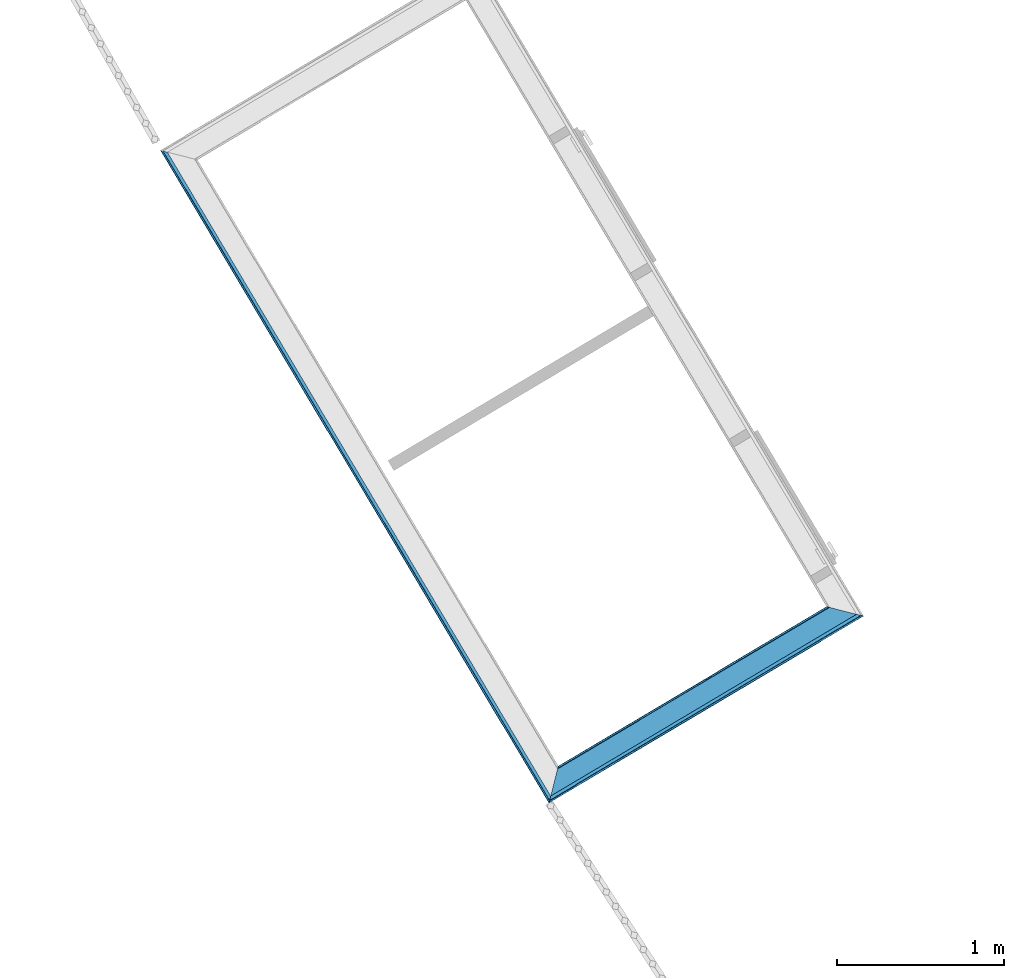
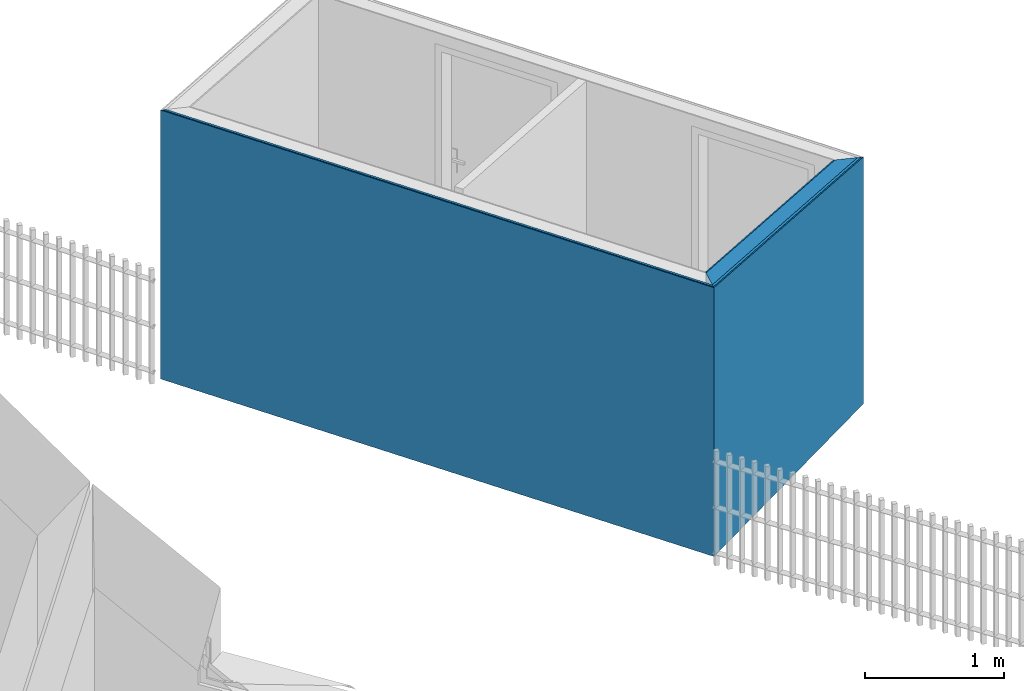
# One storey, part 124 of 195: 6 building element parts, 2 elements without a shape of their own.
"""IFC2X3 building model written with IfcOpenShell, lengths in metres."""

from ifc_helpers import new_model, entity, si_unit, converted_unit, derived_unit, money_unit, direction, frame, origin_with_axes, place, context, subcontext, project, spatial, polyline, outline, extrude, boolean, faceted_brep, material, type_object, element, aggregate, save


model = new_model("IFC2X3")

# Units and contexts
model_context = context("Model", 3, precision=1e-05, world=origin_with_axes(), true_north=direction((0.0, 1.0)))
body_context = subcontext(model_context, "Body", "Model", "MODEL_VIEW")
ifc_project = project(units=[si_unit("LENGTHUNIT", "METRE"), si_unit("AREAUNIT", "SQUARE_METRE"), si_unit("VOLUMEUNIT", "CUBIC_METRE"), converted_unit("PLANEANGLEUNIT", "DEGREE", entity("IfcPlaneAngleMeasure", 0.0174532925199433), si_unit("PLANEANGLEUNIT", "RADIAN"), dimensions=[0, 0, 0, 0, 0, 0, 0]), money_unit("CHF"), converted_unit("TIMEUNIT", "Year", entity("IfcTimeMeasure", 31557600.0), si_unit("TIMEUNIT", "SECOND"), dimensions=[0, 0, 1, 0, 0, 0, 0]), si_unit("MASSUNIT", "GRAM", prefix="KILO"), si_unit("THERMODYNAMICTEMPERATUREUNIT", "DEGREE_CELSIUS"), si_unit("LUMINOUSINTENSITYUNIT", "LUMEN"), si_unit("ENERGYUNIT", "JOULE", prefix="MEGA"), derived_unit("THERMALCONDUCTANCEUNIT", [(si_unit("POWERUNIT", "WATT"), 1), (si_unit("LENGTHUNIT", "METRE"), -1), (si_unit("THERMODYNAMICTEMPERATUREUNIT", "KELVIN"), -1)]), derived_unit("SPECIFICHEATCAPACITYUNIT", [(si_unit("ENERGYUNIT", "JOULE"), 1), (si_unit("MASSUNIT", "GRAM", prefix="KILO"), -1), (si_unit("THERMODYNAMICTEMPERATUREUNIT", "KELVIN"), -1)]), derived_unit("MASSDENSITYUNIT", [(si_unit("MASSUNIT", "GRAM", prefix="KILO"), 1), (si_unit("VOLUMEUNIT", "CUBIC_METRE"), -1)])], contexts=[model_context])

# Site, building, storey
site_placement = place(None, origin_with_axes())
site = spatial("IfcSite", under=ifc_project, at=site_placement, Name="Site", CompositionType="ELEMENT")
building_placement = place(site_placement, origin_with_axes())
building = spatial("IfcBuilding", under=site, at=building_placement, Name="Bâtiment", CompositionType="ELEMENT")
storey_placement = place(building_placement, origin_with_axes())
storey = spatial("IfcBuildingStorey", under=building, at=storey_placement, Name="rdc", CompositionType="ELEMENT", Elevation=0.0)

# Wall, building element parts
wall_type = type_object("IfcWallType", Name="1/Ossatur bois 160   non isol 160", PredefinedType="NOTDEFINED")
wall_1_placement = place(storey_placement, frame((9556.70569236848, -1050.443554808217, 57.7), z_axis=(0.0, 0.0, 1.0), x_axis=(-0.8597204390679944, -0.5107648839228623, 0.0)))
wall_1 = element("IfcWall", 1, at=wall_1_placement, inside=storey, type_object=wall_type, Name="Mur-111")
ifc_material_1 = material(Name="Sans Trame 296962763")
building_element_part_1_placement = place(wall_1_placement, origin_with_axes())
building_element_part_1 = element("IfcBuildingElementPart", 2, at=building_element_part_1_placement, material=ifc_material_1, Name="Sans Trame 296962763", context=body_context, shape_type="CSG", body=[
    boolean("DIFFERENCE", boolean("DIFFERENCE", boolean("DIFFERENCE", boolean("DIFFERENCE", extrude(outline(polyline([(0.0, -0.1600000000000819), (2.193253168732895, -0.1599999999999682), (2.193253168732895, -0.1499999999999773), (0.0, -0.1500000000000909), (0.0, -0.1600000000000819)])), origin_with_axes(), (0.0, 0.0, 1.0), 2.75), faceted_brep([(2.043244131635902, -0.1499999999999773, 0.0), (2.043244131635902, -0.1499999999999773, 2.342985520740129), (0.1501347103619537, -0.1500000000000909, 2.177359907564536), (0.1501347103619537, -0.1500000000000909, 0.0), (0.0, -0.1500000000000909, 0.0), (0.0, -0.1500000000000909, 2.75), (2.193253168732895, -0.1499999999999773, 2.75), (2.193253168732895, -0.1499999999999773, 0.0), (2.03325310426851, -0.1600000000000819, 0.0), (2.03325310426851, -0.1600000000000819, 2.342111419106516), (0.1601436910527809, -0.1600000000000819, 2.178235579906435), (0.1601436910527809, -0.1600000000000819, 0.0), (0.0, -0.1600000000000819, 0.0), (0.0, -0.1600000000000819, 2.75), (2.193253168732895, -0.1599999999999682, 2.75), (2.193253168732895, -0.1599999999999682, 0.0)], [[[0, 1, 2, 3, 4, 5, 6, 7]], [[8, 9, 1, 0]], [[2, 1, 9, 10]], [[3, 2, 10, 11]], [[3, 11, 12, 4]], [[5, 4, 12, 13]], [[5, 13, 14, 6]], [[14, 15, 7, 6]], [[8, 0, 7, 15]], [[9, 8, 15, 14, 13, 12, 11, 10]]])), faceted_brep([(2.163136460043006, -0.02999999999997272, 0.0), (2.163136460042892, -0.02999999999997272, 2.35347474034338), (0.03002694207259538, -0.0300000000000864, 2.166851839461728), (0.030026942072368, -0.0300000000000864, 0.0), (0.0, -0.0300000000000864, 0.0), (0.0, -0.0300000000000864, 2.75), (2.193253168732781, -0.02999999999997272, 2.75), (2.193253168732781, -0.02999999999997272, 0.0), (2.043244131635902, -0.1499999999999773, 0.0), (2.043244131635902, -0.1499999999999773, 2.342985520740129), (0.1501347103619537, -0.1500000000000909, 2.177359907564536), (0.1501347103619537, -0.1500000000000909, 0.0), (0.0, -0.1500000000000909, 0.0), (0.0, -0.1500000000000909, 2.75), (2.193253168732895, -0.1499999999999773, 2.75), (2.193253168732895, -0.1499999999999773, 0.0)], [[[0, 1, 2, 3, 4, 5, 6, 7]], [[8, 9, 1, 0]], [[2, 1, 9, 10]], [[3, 2, 10, 11]], [[3, 11, 12, 4]], [[5, 4, 12, 13]], [[5, 13, 14, 6]], [[14, 15, 7, 6]], [[8, 0, 7, 15]], [[9, 8, 15, 14, 13, 12, 11, 10]]])), faceted_brep([(2.183118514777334, -0.01000000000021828, 0.0), (2.18311851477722, -0.01000000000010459, 2.35522294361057), (0.01000898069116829, -0.01000000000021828, 2.165100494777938), (0.01000898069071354, -0.009999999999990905, 0.0), (0.0, -0.009999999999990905, 0.0), (0.0, -0.009999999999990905, 2.75), (2.193253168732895, -0.01000000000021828, 2.75), (2.193253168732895, -0.01000000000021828, 0.0), (2.163136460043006, -0.02999999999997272, 0.0), (2.163136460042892, -0.02999999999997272, 2.35347474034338), (0.03002694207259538, -0.0300000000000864, 2.166851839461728), (0.030026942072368, -0.0300000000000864, 0.0), (0.0, -0.0300000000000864, 0.0), (0.0, -0.0300000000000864, 2.75), (2.193253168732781, -0.02999999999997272, 2.75), (2.193253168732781, -0.02999999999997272, 0.0)], [[[0, 1, 2, 3, 4, 5, 6, 7]], [[8, 9, 1, 0]], [[2, 1, 9, 10]], [[3, 2, 10, 11]], [[3, 11, 12, 4]], [[5, 4, 12, 13]], [[5, 13, 14, 6]], [[14, 15, 7, 6]], [[8, 0, 7, 15]], [[9, 8, 15, 14, 13, 12, 11, 10]]])), faceted_brep([(2.193109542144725, 0.0, 0.0), (2.193109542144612, 0.0, 2.356097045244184), (0.0, 0.0, 2.164224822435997), (0.0, 0.0, 2.75), (2.193253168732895, 0.0, 2.75), (2.193253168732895, 0.0, 0.0), (2.183118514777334, -0.01000000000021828, 0.0), (2.18311851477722, -0.01000000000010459, 2.35522294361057), (0.0100089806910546, -0.009999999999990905, 2.165100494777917), (0.0, 0.0, 0.0), (0.0, -0.009999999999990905, 0.0), (0.0, -0.009999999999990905, 2.75), (2.193253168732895, -0.01000000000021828, 2.75), (2.193253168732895, -0.01000000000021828, 0.0), (0.01000898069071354, -0.009999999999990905, 0.0)], [[[0, 1, 2, 3, 4, 5]], [[6, 7, 1, 0]], [[2, 1, 7, 8]], [[2, 9, 10, 11, 3]], [[3, 11, 12, 4]], [[12, 13, 5, 4]], [[6, 0, 5, 13]], [[7, 6, 13, 12, 11, 10, 14, 8]], [[9, 2, 8, 14]], [[9, 14, 10]]])),
])
ifc_material_2 = material(Name="Hachure solide 323202122")
building_element_part_2_placement = place(wall_1_placement, origin_with_axes())
building_element_part_2 = element("IfcBuildingElementPart", 3, at=building_element_part_2_placement, material=ifc_material_2, Name="Hachure solide 323202122", context=body_context, shape_type="CSG", body=[
    boolean("DIFFERENCE", boolean("DIFFERENCE", boolean("DIFFERENCE", boolean("DIFFERENCE", extrude(outline(polyline([(0.0, -0.009999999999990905), (2.193253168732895, -0.01000000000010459), (2.193253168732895, 0.0), (0.0, 0.0), (0.0, -0.009999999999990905)])), origin_with_axes(), (0.0, 0.0, 1.0), 2.75), faceted_brep([(2.043244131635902, -0.1499999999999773, 0.0), (2.043244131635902, -0.1499999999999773, 2.342985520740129), (0.1501347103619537, -0.1500000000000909, 2.177359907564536), (0.1501347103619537, -0.1500000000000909, 0.0), (0.0, -0.1500000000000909, 0.0), (0.0, -0.1500000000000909, 2.75), (2.193253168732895, -0.1499999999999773, 2.75), (2.193253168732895, -0.1499999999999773, 0.0), (2.03325310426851, -0.1600000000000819, 0.0), (2.03325310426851, -0.1600000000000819, 2.342111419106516), (0.1601436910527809, -0.1600000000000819, 2.178235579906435), (0.1601436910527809, -0.1600000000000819, 0.0), (0.0, -0.1600000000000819, 0.0), (0.0, -0.1600000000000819, 2.75), (2.193253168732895, -0.1599999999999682, 2.75), (2.193253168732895, -0.1599999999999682, 0.0)], [[[0, 1, 2, 3, 4, 5, 6, 7]], [[8, 9, 1, 0]], [[2, 1, 9, 10]], [[3, 2, 10, 11]], [[3, 11, 12, 4]], [[5, 4, 12, 13]], [[5, 13, 14, 6]], [[14, 15, 7, 6]], [[8, 0, 7, 15]], [[9, 8, 15, 14, 13, 12, 11, 10]]])), faceted_brep([(2.163136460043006, -0.02999999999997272, 0.0), (2.163136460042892, -0.02999999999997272, 2.35347474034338), (0.03002694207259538, -0.0300000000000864, 2.166851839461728), (0.030026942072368, -0.0300000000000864, 0.0), (0.0, -0.0300000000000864, 0.0), (0.0, -0.0300000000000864, 2.75), (2.193253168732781, -0.02999999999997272, 2.75), (2.193253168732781, -0.02999999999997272, 0.0), (2.043244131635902, -0.1499999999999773, 0.0), (2.043244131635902, -0.1499999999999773, 2.342985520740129), (0.1501347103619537, -0.1500000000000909, 2.177359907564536), (0.1501347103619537, -0.1500000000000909, 0.0), (0.0, -0.1500000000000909, 0.0), (0.0, -0.1500000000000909, 2.75), (2.193253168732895, -0.1499999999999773, 2.75), (2.193253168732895, -0.1499999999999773, 0.0)], [[[0, 1, 2, 3, 4, 5, 6, 7]], [[8, 9, 1, 0]], [[2, 1, 9, 10]], [[3, 2, 10, 11]], [[3, 11, 12, 4]], [[5, 4, 12, 13]], [[5, 13, 14, 6]], [[14, 15, 7, 6]], [[8, 0, 7, 15]], [[9, 8, 15, 14, 13, 12, 11, 10]]])), faceted_brep([(2.183118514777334, -0.01000000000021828, 0.0), (2.18311851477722, -0.01000000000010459, 2.35522294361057), (0.01000898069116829, -0.01000000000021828, 2.165100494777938), (0.01000898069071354, -0.009999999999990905, 0.0), (0.0, -0.009999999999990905, 0.0), (0.0, -0.009999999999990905, 2.75), (2.193253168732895, -0.01000000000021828, 2.75), (2.193253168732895, -0.01000000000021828, 0.0), (2.163136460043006, -0.02999999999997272, 0.0), (2.163136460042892, -0.02999999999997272, 2.35347474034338), (0.03002694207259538, -0.0300000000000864, 2.166851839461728), (0.030026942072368, -0.0300000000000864, 0.0), (0.0, -0.0300000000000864, 0.0), (0.0, -0.0300000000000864, 2.75), (2.193253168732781, -0.02999999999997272, 2.75), (2.193253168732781, -0.02999999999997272, 0.0)], [[[0, 1, 2, 3, 4, 5, 6, 7]], [[8, 9, 1, 0]], [[2, 1, 9, 10]], [[3, 2, 10, 11]], [[3, 11, 12, 4]], [[5, 4, 12, 13]], [[5, 13, 14, 6]], [[14, 15, 7, 6]], [[8, 0, 7, 15]], [[9, 8, 15, 14, 13, 12, 11, 10]]])), faceted_brep([(2.193109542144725, 0.0, 0.0), (2.193109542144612, 0.0, 2.356097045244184), (0.0, 0.0, 2.164224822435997), (0.0, 0.0, 2.75), (2.193253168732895, 0.0, 2.75), (2.193253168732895, 0.0, 0.0), (2.183118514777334, -0.01000000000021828, 0.0), (2.18311851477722, -0.01000000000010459, 2.35522294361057), (0.0100089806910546, -0.009999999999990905, 2.165100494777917), (0.0, 0.0, 0.0), (0.0, -0.009999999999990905, 0.0), (0.0, -0.009999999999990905, 2.75), (2.193253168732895, -0.01000000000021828, 2.75), (2.193253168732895, -0.01000000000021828, 0.0), (0.01000898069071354, -0.009999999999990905, 0.0)], [[[0, 1, 2, 3, 4, 5]], [[6, 7, 1, 0]], [[2, 1, 7, 8]], [[2, 9, 10, 11, 3]], [[3, 11, 12, 4]], [[12, 13, 5, 4]], [[6, 0, 5, 13]], [[7, 6, 13, 12, 11, 10, 14, 8]], [[9, 2, 8, 14]], [[9, 14, 10]]])),
])
ifc_material_3 = material(Name="Lame d'air 275581439")
building_element_part_3_placement = place(wall_1_placement, origin_with_axes())
building_element_part_3 = element("IfcBuildingElementPart", 4, at=building_element_part_3_placement, material=ifc_material_3, Name="Lame d'air 275581439", context=body_context, shape_type="CSG", body=[
    boolean("DIFFERENCE", boolean("DIFFERENCE", boolean("DIFFERENCE", boolean("DIFFERENCE", extrude(outline(polyline([(0.0, -0.1500000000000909), (2.193253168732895, -0.1499999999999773), (2.193253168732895, -0.02999999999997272), (0.0, -0.0300000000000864), (0.0, -0.1500000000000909)])), origin_with_axes(), (0.0, 0.0, 1.0), 2.75), faceted_brep([(2.043244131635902, -0.1499999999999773, 0.0), (2.043244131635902, -0.1499999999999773, 2.342985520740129), (0.1501347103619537, -0.1500000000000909, 2.177359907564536), (0.1501347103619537, -0.1500000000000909, 0.0), (0.0, -0.1500000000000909, 0.0), (0.0, -0.1500000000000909, 2.75), (2.193253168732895, -0.1499999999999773, 2.75), (2.193253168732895, -0.1499999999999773, 0.0), (2.03325310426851, -0.1600000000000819, 0.0), (2.03325310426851, -0.1600000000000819, 2.342111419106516), (0.1601436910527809, -0.1600000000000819, 2.178235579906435), (0.1601436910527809, -0.1600000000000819, 0.0), (0.0, -0.1600000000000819, 0.0), (0.0, -0.1600000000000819, 2.75), (2.193253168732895, -0.1599999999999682, 2.75), (2.193253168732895, -0.1599999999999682, 0.0)], [[[0, 1, 2, 3, 4, 5, 6, 7]], [[8, 9, 1, 0]], [[2, 1, 9, 10]], [[3, 2, 10, 11]], [[3, 11, 12, 4]], [[5, 4, 12, 13]], [[5, 13, 14, 6]], [[14, 15, 7, 6]], [[8, 0, 7, 15]], [[9, 8, 15, 14, 13, 12, 11, 10]]])), faceted_brep([(2.163136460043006, -0.02999999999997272, 0.0), (2.163136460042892, -0.02999999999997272, 2.35347474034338), (0.03002694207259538, -0.0300000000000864, 2.166851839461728), (0.030026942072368, -0.0300000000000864, 0.0), (0.0, -0.0300000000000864, 0.0), (0.0, -0.0300000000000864, 2.75), (2.193253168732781, -0.02999999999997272, 2.75), (2.193253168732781, -0.02999999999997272, 0.0), (2.043244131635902, -0.1499999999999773, 0.0), (2.043244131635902, -0.1499999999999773, 2.342985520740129), (0.1501347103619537, -0.1500000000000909, 2.177359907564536), (0.1501347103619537, -0.1500000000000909, 0.0), (0.0, -0.1500000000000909, 0.0), (0.0, -0.1500000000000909, 2.75), (2.193253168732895, -0.1499999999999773, 2.75), (2.193253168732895, -0.1499999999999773, 0.0)], [[[0, 1, 2, 3, 4, 5, 6, 7]], [[8, 9, 1, 0]], [[2, 1, 9, 10]], [[3, 2, 10, 11]], [[3, 11, 12, 4]], [[5, 4, 12, 13]], [[5, 13, 14, 6]], [[14, 15, 7, 6]], [[8, 0, 7, 15]], [[9, 8, 15, 14, 13, 12, 11, 10]]])), faceted_brep([(2.183118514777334, -0.01000000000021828, 0.0), (2.18311851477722, -0.01000000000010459, 2.35522294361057), (0.01000898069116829, -0.01000000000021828, 2.165100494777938), (0.01000898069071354, -0.009999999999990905, 0.0), (0.0, -0.009999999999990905, 0.0), (0.0, -0.009999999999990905, 2.75), (2.193253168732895, -0.01000000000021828, 2.75), (2.193253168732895, -0.01000000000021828, 0.0), (2.163136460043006, -0.02999999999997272, 0.0), (2.163136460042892, -0.02999999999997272, 2.35347474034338), (0.03002694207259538, -0.0300000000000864, 2.166851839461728), (0.030026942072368, -0.0300000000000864, 0.0), (0.0, -0.0300000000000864, 0.0), (0.0, -0.0300000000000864, 2.75), (2.193253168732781, -0.02999999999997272, 2.75), (2.193253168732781, -0.02999999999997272, 0.0)], [[[0, 1, 2, 3, 4, 5, 6, 7]], [[8, 9, 1, 0]], [[2, 1, 9, 10]], [[3, 2, 10, 11]], [[3, 11, 12, 4]], [[5, 4, 12, 13]], [[5, 13, 14, 6]], [[14, 15, 7, 6]], [[8, 0, 7, 15]], [[9, 8, 15, 14, 13, 12, 11, 10]]])), faceted_brep([(2.193109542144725, 0.0, 0.0), (2.193109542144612, 0.0, 2.356097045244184), (0.0, 0.0, 2.164224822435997), (0.0, 0.0, 2.75), (2.193253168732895, 0.0, 2.75), (2.193253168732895, 0.0, 0.0), (2.183118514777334, -0.01000000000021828, 0.0), (2.18311851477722, -0.01000000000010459, 2.35522294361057), (0.0100089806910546, -0.009999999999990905, 2.165100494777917), (0.0, 0.0, 0.0), (0.0, -0.009999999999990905, 0.0), (0.0, -0.009999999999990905, 2.75), (2.193253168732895, -0.01000000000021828, 2.75), (2.193253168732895, -0.01000000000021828, 0.0), (0.01000898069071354, -0.009999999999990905, 0.0)], [[[0, 1, 2, 3, 4, 5]], [[6, 7, 1, 0]], [[2, 1, 7, 8]], [[2, 9, 10, 11, 3]], [[3, 11, 12, 4]], [[12, 13, 5, 4]], [[6, 0, 5, 13]], [[7, 6, 13, 12, 11, 10, 14, 8]], [[9, 2, 8, 14]], [[9, 14, 10]]])),
])
ifc_material_4 = material(Name="Lame d'air 323202302")
building_element_part_4_placement = place(wall_1_placement, origin_with_axes())
building_element_part_4 = element("IfcBuildingElementPart", 5, at=building_element_part_4_placement, material=ifc_material_4, Name="Lame d'air 323202302", context=body_context, shape_type="CSG", body=[
    boolean("DIFFERENCE", boolean("DIFFERENCE", boolean("DIFFERENCE", boolean("DIFFERENCE", extrude(outline(polyline([(0.0, -0.0300000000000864), (2.193253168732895, -0.02999999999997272), (2.193253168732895, -0.01000000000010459), (0.0, -0.009999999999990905), (0.0, -0.0300000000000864)])), origin_with_axes(), (0.0, 0.0, 1.0), 2.75), faceted_brep([(2.043244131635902, -0.1499999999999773, 0.0), (2.043244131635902, -0.1499999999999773, 2.342985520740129), (0.1501347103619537, -0.1500000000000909, 2.177359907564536), (0.1501347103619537, -0.1500000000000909, 0.0), (0.0, -0.1500000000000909, 0.0), (0.0, -0.1500000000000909, 2.75), (2.193253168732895, -0.1499999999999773, 2.75), (2.193253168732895, -0.1499999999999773, 0.0), (2.03325310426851, -0.1600000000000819, 0.0), (2.03325310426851, -0.1600000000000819, 2.342111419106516), (0.1601436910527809, -0.1600000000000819, 2.178235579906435), (0.1601436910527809, -0.1600000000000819, 0.0), (0.0, -0.1600000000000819, 0.0), (0.0, -0.1600000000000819, 2.75), (2.193253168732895, -0.1599999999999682, 2.75), (2.193253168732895, -0.1599999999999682, 0.0)], [[[0, 1, 2, 3, 4, 5, 6, 7]], [[8, 9, 1, 0]], [[2, 1, 9, 10]], [[3, 2, 10, 11]], [[3, 11, 12, 4]], [[5, 4, 12, 13]], [[5, 13, 14, 6]], [[14, 15, 7, 6]], [[8, 0, 7, 15]], [[9, 8, 15, 14, 13, 12, 11, 10]]])), faceted_brep([(2.163136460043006, -0.02999999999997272, 0.0), (2.163136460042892, -0.02999999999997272, 2.35347474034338), (0.03002694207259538, -0.0300000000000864, 2.166851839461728), (0.030026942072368, -0.0300000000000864, 0.0), (0.0, -0.0300000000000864, 0.0), (0.0, -0.0300000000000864, 2.75), (2.193253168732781, -0.02999999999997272, 2.75), (2.193253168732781, -0.02999999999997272, 0.0), (2.043244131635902, -0.1499999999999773, 0.0), (2.043244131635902, -0.1499999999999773, 2.342985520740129), (0.1501347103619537, -0.1500000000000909, 2.177359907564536), (0.1501347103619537, -0.1500000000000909, 0.0), (0.0, -0.1500000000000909, 0.0), (0.0, -0.1500000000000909, 2.75), (2.193253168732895, -0.1499999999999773, 2.75), (2.193253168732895, -0.1499999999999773, 0.0)], [[[0, 1, 2, 3, 4, 5, 6, 7]], [[8, 9, 1, 0]], [[2, 1, 9, 10]], [[3, 2, 10, 11]], [[3, 11, 12, 4]], [[5, 4, 12, 13]], [[5, 13, 14, 6]], [[14, 15, 7, 6]], [[8, 0, 7, 15]], [[9, 8, 15, 14, 13, 12, 11, 10]]])), faceted_brep([(2.183118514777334, -0.01000000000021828, 0.0), (2.18311851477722, -0.01000000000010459, 2.35522294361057), (0.01000898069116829, -0.01000000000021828, 2.165100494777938), (0.01000898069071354, -0.009999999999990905, 0.0), (0.0, -0.009999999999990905, 0.0), (0.0, -0.009999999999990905, 2.75), (2.193253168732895, -0.01000000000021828, 2.75), (2.193253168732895, -0.01000000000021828, 0.0), (2.163136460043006, -0.02999999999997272, 0.0), (2.163136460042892, -0.02999999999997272, 2.35347474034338), (0.03002694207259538, -0.0300000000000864, 2.166851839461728), (0.030026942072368, -0.0300000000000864, 0.0), (0.0, -0.0300000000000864, 0.0), (0.0, -0.0300000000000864, 2.75), (2.193253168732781, -0.02999999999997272, 2.75), (2.193253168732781, -0.02999999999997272, 0.0)], [[[0, 1, 2, 3, 4, 5, 6, 7]], [[8, 9, 1, 0]], [[2, 1, 9, 10]], [[3, 2, 10, 11]], [[3, 11, 12, 4]], [[5, 4, 12, 13]], [[5, 13, 14, 6]], [[14, 15, 7, 6]], [[8, 0, 7, 15]], [[9, 8, 15, 14, 13, 12, 11, 10]]])), faceted_brep([(2.193109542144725, 0.0, 0.0), (2.193109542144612, 0.0, 2.356097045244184), (0.0, 0.0, 2.164224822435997), (0.0, 0.0, 2.75), (2.193253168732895, 0.0, 2.75), (2.193253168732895, 0.0, 0.0), (2.183118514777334, -0.01000000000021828, 0.0), (2.18311851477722, -0.01000000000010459, 2.35522294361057), (0.0100089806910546, -0.009999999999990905, 2.165100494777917), (0.0, 0.0, 0.0), (0.0, -0.009999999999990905, 0.0), (0.0, -0.009999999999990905, 2.75), (2.193253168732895, -0.01000000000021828, 2.75), (2.193253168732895, -0.01000000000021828, 0.0), (0.01000898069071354, -0.009999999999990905, 0.0)], [[[0, 1, 2, 3, 4, 5]], [[6, 7, 1, 0]], [[2, 1, 7, 8]], [[2, 9, 10, 11, 3]], [[3, 11, 12, 4]], [[12, 13, 5, 4]], [[6, 0, 5, 13]], [[7, 6, 13, 12, 11, 10, 14, 8]], [[9, 2, 8, 14]], [[9, 14, 10]]])),
])
aggregate(wall_1, [building_element_part_1, building_element_part_2, building_element_part_3, building_element_part_4])

wall_2_placement = place(storey_placement, frame((9554.820231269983, -1051.563718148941, 57.7), z_axis=(0.0, 0.0, 1.0), x_axis=(-0.5115364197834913, 0.8592615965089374, 0.0)))
wall_2 = element("IfcWall", 6, at=wall_2_placement, inside=storey, type_object=wall_type, Name="Mur-108")
building_element_part_5_placement = place(wall_2_placement, origin_with_axes())
building_element_part_5 = element("IfcBuildingElementPart", 7, at=building_element_part_5_placement, material=ifc_material_2, Name="Hachure solide 323202122", context=body_context, shape_type="CSG", body=[
    boolean("DIFFERENCE", boolean("DIFFERENCE", boolean("DIFFERENCE", boolean("DIFFERENCE", extrude(outline(polyline([(-0.0001436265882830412, -0.01000000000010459), (4.552099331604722, -0.009999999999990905), (4.552099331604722, 0.0), (-0.0001436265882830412, 0.0), (-0.0001436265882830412, -0.01000000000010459)])), origin_with_axes(), (0.0, 0.0, 1.0), 2.75), faceted_brep([(4.392099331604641, -0.1600000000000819, 2.342443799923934), (4.392099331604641, -0.1600000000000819, 0.0), (4.552099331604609, -0.1600000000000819, 0.0), (4.552099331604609, -0.1600000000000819, 2.75), (-0.0001436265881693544, -0.1600000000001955, 2.75), (-0.0001436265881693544, -0.1600000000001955, 0.0), (0.1598564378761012, -0.1600000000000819, 0.0), (0.1598564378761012, -0.1600000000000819, 2.342111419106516), (4.402099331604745, -0.1500000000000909, 2.343319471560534), (4.402099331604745, -0.1500000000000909, 0.0), (4.552099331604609, -0.1500000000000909, 0.0), (4.552099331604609, -0.1500000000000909, 2.75), (-0.0001436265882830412, -0.1500000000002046, 2.75), (-0.0001436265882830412, -0.1500000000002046, 0.0), (0.1498654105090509, -0.1500000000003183, 0.0), (0.1498654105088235, -0.1500000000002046, 2.342985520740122)], [[[0, 1, 2, 3, 4, 5, 6, 7]], [[1, 0, 8, 9]], [[1, 9, 10, 2]], [[3, 2, 10, 11]], [[12, 4, 3, 11]], [[12, 13, 5, 4]], [[14, 6, 5, 13]], [[7, 6, 14, 15]], [[0, 7, 15, 8]], [[15, 14, 13, 12, 11, 10, 9, 8]]])), faceted_brep([(4.402099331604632, -0.1500000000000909, 2.343319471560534), (4.402099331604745, -0.1500000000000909, 0.0), (4.552099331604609, -0.1500000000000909, 0.0), (4.552099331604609, -0.1500000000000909, 2.75), (-0.0001436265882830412, -0.1500000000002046, 2.75), (-0.0001436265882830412, -0.1500000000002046, 0.0), (0.1498654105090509, -0.1500000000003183, 0.0), (0.1498654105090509, -0.1500000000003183, 2.342985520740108), (4.52209933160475, -0.03000000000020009, 2.353827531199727), (4.52209933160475, -0.03000000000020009, 0.0), (4.552099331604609, -0.03000000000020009, 0.0), (4.552099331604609, -0.03000000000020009, 2.75), (-0.0001436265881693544, -0.03000000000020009, 2.75), (-0.0001436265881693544, -0.03000000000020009, 0.0), (0.02997308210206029, -0.0300000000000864, 0.0), (0.02997308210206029, -0.03000000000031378, 2.353474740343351)], [[[0, 1, 2, 3, 4, 5, 6, 7]], [[1, 0, 8, 9]], [[1, 9, 10, 2]], [[3, 2, 10, 11]], [[12, 4, 3, 11]], [[12, 13, 5, 4]], [[14, 6, 5, 13]], [[7, 6, 14, 15]], [[0, 7, 15, 8]], [[15, 14, 13, 12, 11, 10, 9, 8]]])), faceted_brep([(4.52209933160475, -0.03000000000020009, 2.353827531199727), (4.52209933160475, -0.03000000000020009, 0.0), (4.552099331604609, -0.03000000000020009, 0.0), (4.552099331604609, -0.03000000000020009, 2.75), (-0.0001436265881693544, -0.03000000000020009, 2.75), (-0.0001436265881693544, -0.03000000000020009, 0.0), (0.02997308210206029, -0.0300000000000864, 0.0), (0.02997308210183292, -0.03000000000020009, 2.353474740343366), (4.542099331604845, -0.01000000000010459, 2.355578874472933), (4.542099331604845, -0.01000000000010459, 0.0), (4.552099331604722, -0.01000000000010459, 0.0), (4.552099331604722, -0.01000000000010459, 2.75), (-0.0001436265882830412, -0.01000000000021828, 2.75), (-0.0001436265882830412, -0.01000000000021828, 0.0), (0.009991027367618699, -0.01000000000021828, 0.0), (0.009991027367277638, -0.009999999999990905, 2.355222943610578)], [[[0, 1, 2, 3, 4, 5, 6, 7]], [[1, 0, 8, 9]], [[1, 9, 10, 2]], [[3, 2, 10, 11]], [[12, 4, 3, 11]], [[12, 13, 5, 4]], [[14, 6, 5, 13]], [[7, 6, 14, 15]], [[0, 7, 15, 8]], [[15, 14, 13, 12, 11, 10, 9, 8]]])), faceted_brep([(4.542099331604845, -0.01000000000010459, 2.355578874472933), (4.542099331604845, -0.01000000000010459, 0.0), (4.552099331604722, -0.01000000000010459, 0.0), (4.552099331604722, -0.01000000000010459, 2.75), (-0.0001436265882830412, -0.01000000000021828, 2.75), (-0.0001436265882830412, -0.01000000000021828, 0.0), (0.009991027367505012, -0.01000000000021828, 0.0), (0.009991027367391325, -0.01000000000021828, 2.35522294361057), (4.552099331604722, 0.0, 2.356454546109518), (4.552099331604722, 0.0, 0.0), (4.552099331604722, 0.0, 2.75), (-0.0001436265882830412, 0.0, 2.75), (-0.0001436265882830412, 0.0, 0.0), (0.0, 0.0, 0.0), (0.0, 0.0, 2.356097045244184)], [[[0, 1, 2, 3, 4, 5, 6, 7]], [[1, 0, 8, 9]], [[1, 9, 2]], [[9, 8, 10, 3, 2]], [[11, 4, 3, 10]], [[11, 12, 5, 4]], [[13, 6, 5, 12]], [[7, 6, 13, 14]], [[0, 7, 14, 8]], [[14, 13, 12, 11, 10, 8]]])),
])
building_element_part_6_placement = place(wall_2_placement, origin_with_axes())
building_element_part_6 = element("IfcBuildingElementPart", 8, at=building_element_part_6_placement, material=ifc_material_4, Name="Lame d'air 323202302", context=body_context, shape_type="CSG", body=[
    boolean("DIFFERENCE", boolean("DIFFERENCE", boolean("DIFFERENCE", boolean("DIFFERENCE", extrude(outline(polyline([(-0.0001436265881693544, -0.0300000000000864), (4.552099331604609, -0.0300000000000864), (4.552099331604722, -0.009999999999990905), (-0.0001436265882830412, -0.01000000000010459), (-0.0001436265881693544, -0.0300000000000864)])), origin_with_axes(), (0.0, 0.0, 1.0), 2.75), faceted_brep([(4.392099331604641, -0.1600000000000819, 2.342443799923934), (4.392099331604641, -0.1600000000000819, 0.0), (4.552099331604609, -0.1600000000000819, 0.0), (4.552099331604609, -0.1600000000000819, 2.75), (-0.0001436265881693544, -0.1600000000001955, 2.75), (-0.0001436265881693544, -0.1600000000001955, 0.0), (0.1598564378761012, -0.1600000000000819, 0.0), (0.1598564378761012, -0.1600000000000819, 2.342111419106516), (4.402099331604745, -0.1500000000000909, 2.343319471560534), (4.402099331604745, -0.1500000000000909, 0.0), (4.552099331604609, -0.1500000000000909, 0.0), (4.552099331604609, -0.1500000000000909, 2.75), (-0.0001436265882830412, -0.1500000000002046, 2.75), (-0.0001436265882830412, -0.1500000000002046, 0.0), (0.1498654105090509, -0.1500000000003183, 0.0), (0.1498654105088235, -0.1500000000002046, 2.342985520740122)], [[[0, 1, 2, 3, 4, 5, 6, 7]], [[1, 0, 8, 9]], [[1, 9, 10, 2]], [[3, 2, 10, 11]], [[12, 4, 3, 11]], [[12, 13, 5, 4]], [[14, 6, 5, 13]], [[7, 6, 14, 15]], [[0, 7, 15, 8]], [[15, 14, 13, 12, 11, 10, 9, 8]]])), faceted_brep([(4.402099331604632, -0.1500000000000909, 2.343319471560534), (4.402099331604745, -0.1500000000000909, 0.0), (4.552099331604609, -0.1500000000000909, 0.0), (4.552099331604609, -0.1500000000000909, 2.75), (-0.0001436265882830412, -0.1500000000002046, 2.75), (-0.0001436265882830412, -0.1500000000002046, 0.0), (0.1498654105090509, -0.1500000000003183, 0.0), (0.1498654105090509, -0.1500000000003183, 2.342985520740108), (4.52209933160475, -0.03000000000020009, 2.353827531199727), (4.52209933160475, -0.03000000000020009, 0.0), (4.552099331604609, -0.03000000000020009, 0.0), (4.552099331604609, -0.03000000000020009, 2.75), (-0.0001436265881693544, -0.03000000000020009, 2.75), (-0.0001436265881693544, -0.03000000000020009, 0.0), (0.02997308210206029, -0.0300000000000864, 0.0), (0.02997308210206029, -0.03000000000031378, 2.353474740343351)], [[[0, 1, 2, 3, 4, 5, 6, 7]], [[1, 0, 8, 9]], [[1, 9, 10, 2]], [[3, 2, 10, 11]], [[12, 4, 3, 11]], [[12, 13, 5, 4]], [[14, 6, 5, 13]], [[7, 6, 14, 15]], [[0, 7, 15, 8]], [[15, 14, 13, 12, 11, 10, 9, 8]]])), faceted_brep([(4.52209933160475, -0.03000000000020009, 2.353827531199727), (4.52209933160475, -0.03000000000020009, 0.0), (4.552099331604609, -0.03000000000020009, 0.0), (4.552099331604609, -0.03000000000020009, 2.75), (-0.0001436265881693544, -0.03000000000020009, 2.75), (-0.0001436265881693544, -0.03000000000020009, 0.0), (0.02997308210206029, -0.0300000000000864, 0.0), (0.02997308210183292, -0.03000000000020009, 2.353474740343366), (4.542099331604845, -0.01000000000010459, 2.355578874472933), (4.542099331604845, -0.01000000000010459, 0.0), (4.552099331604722, -0.01000000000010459, 0.0), (4.552099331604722, -0.01000000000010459, 2.75), (-0.0001436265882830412, -0.01000000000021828, 2.75), (-0.0001436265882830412, -0.01000000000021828, 0.0), (0.009991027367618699, -0.01000000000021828, 0.0), (0.009991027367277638, -0.009999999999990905, 2.355222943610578)], [[[0, 1, 2, 3, 4, 5, 6, 7]], [[1, 0, 8, 9]], [[1, 9, 10, 2]], [[3, 2, 10, 11]], [[12, 4, 3, 11]], [[12, 13, 5, 4]], [[14, 6, 5, 13]], [[7, 6, 14, 15]], [[0, 7, 15, 8]], [[15, 14, 13, 12, 11, 10, 9, 8]]])), faceted_brep([(4.542099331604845, -0.01000000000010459, 2.355578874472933), (4.542099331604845, -0.01000000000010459, 0.0), (4.552099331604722, -0.01000000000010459, 0.0), (4.552099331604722, -0.01000000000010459, 2.75), (-0.0001436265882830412, -0.01000000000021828, 2.75), (-0.0001436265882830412, -0.01000000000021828, 0.0), (0.009991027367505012, -0.01000000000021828, 0.0), (0.009991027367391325, -0.01000000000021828, 2.35522294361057), (4.552099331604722, 0.0, 2.356454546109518), (4.552099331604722, 0.0, 0.0), (4.552099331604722, 0.0, 2.75), (-0.0001436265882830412, 0.0, 2.75), (-0.0001436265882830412, 0.0, 0.0), (0.0, 0.0, 0.0), (0.0, 0.0, 2.356097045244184)], [[[0, 1, 2, 3, 4, 5, 6, 7]], [[1, 0, 8, 9]], [[1, 9, 2]], [[9, 8, 10, 3, 2]], [[11, 4, 3, 10]], [[11, 12, 5, 4]], [[13, 6, 5, 12]], [[7, 6, 13, 14]], [[0, 7, 14, 8]], [[14, 13, 12, 11, 10, 8]]])),
])
aggregate(wall_2, [building_element_part_5, building_element_part_6])

save(model, "model.ifc")
